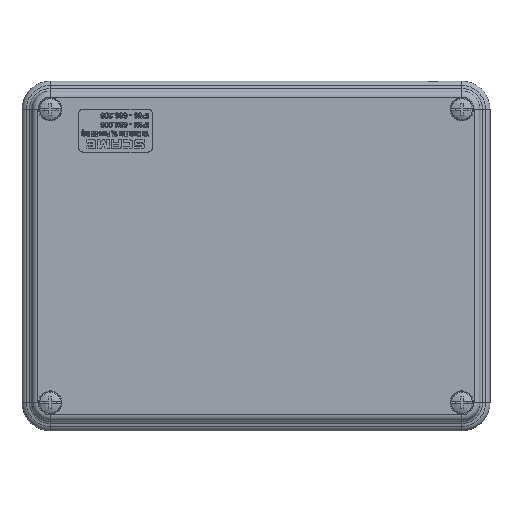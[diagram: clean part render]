
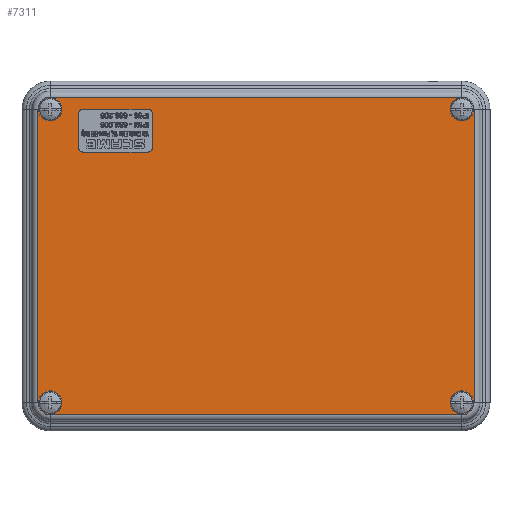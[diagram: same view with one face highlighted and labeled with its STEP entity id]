
A CAD part, top view. The second image highlights one B-rep face of the part: STEP entity #7311.
In plain terms, the highlighted planar face has unit normal (0, 0, 1).
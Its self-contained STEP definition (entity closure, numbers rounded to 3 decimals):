
#5918=FACE_BOUND('',#11268,.T.);
#5919=FACE_BOUND('',#11269,.T.);
#5920=FACE_BOUND('',#11270,.T.);
#5921=FACE_BOUND('',#11271,.T.);
#5922=FACE_BOUND('',#11272,.T.);
#5923=FACE_BOUND('',#11273,.T.);
#6543=CIRCLE('',#32771,1.5);
#6544=CIRCLE('',#32772,1.5);
#6545=CIRCLE('',#32773,1.5);
#6546=CIRCLE('',#32774,1.5);
#6547=CIRCLE('',#32775,3.979);
#6548=CIRCLE('',#32776,4.1);
#6549=CIRCLE('',#32777,4.1);
#6550=CIRCLE('',#32778,4.1);
#6551=CIRCLE('',#32779,4.1);
#6552=CIRCLE('',#32780,3.979);
#6553=CIRCLE('',#32781,3.979);
#6554=CIRCLE('',#32782,3.979);
#7311=ADVANCED_FACE('',(#5918,#5919,#5920,#5921,#5922,#5923),#8704,.F.);
#8704=PLANE('',#32783);
#11268=EDGE_LOOP('',(#15369,#15370,#15371,#15372,#15373,#15374,#15375,#15376));
#11269=EDGE_LOOP('',(#15377));
#11270=EDGE_LOOP('',(#15378,#15379,#15380,#15381,#15382,#15383,#15384,#15385));
#11271=EDGE_LOOP('',(#15386));
#11272=EDGE_LOOP('',(#15387));
#11273=EDGE_LOOP('',(#15388));
#15369=ORIENTED_EDGE('',*,*,#25299,.F.);
#15370=ORIENTED_EDGE('',*,*,#25300,.T.);
#15371=ORIENTED_EDGE('',*,*,#25301,.F.);
#15372=ORIENTED_EDGE('',*,*,#25302,.T.);
#15373=ORIENTED_EDGE('',*,*,#25303,.F.);
#15374=ORIENTED_EDGE('',*,*,#25304,.T.);
#15375=ORIENTED_EDGE('',*,*,#25305,.F.);
#15376=ORIENTED_EDGE('',*,*,#25306,.T.);
#15377=ORIENTED_EDGE('',*,*,#25307,.F.);
#15378=ORIENTED_EDGE('',*,*,#25308,.T.);
#15379=ORIENTED_EDGE('',*,*,#25309,.T.);
#15380=ORIENTED_EDGE('',*,*,#25310,.T.);
#15381=ORIENTED_EDGE('',*,*,#25311,.T.);
#15382=ORIENTED_EDGE('',*,*,#25312,.T.);
#15383=ORIENTED_EDGE('',*,*,#25313,.T.);
#15384=ORIENTED_EDGE('',*,*,#25314,.T.);
#15385=ORIENTED_EDGE('',*,*,#25315,.T.);
#15386=ORIENTED_EDGE('',*,*,#25316,.F.);
#15387=ORIENTED_EDGE('',*,*,#25317,.F.);
#15388=ORIENTED_EDGE('',*,*,#25318,.F.);
#22201=VERTEX_POINT('',#46527);
#22202=VERTEX_POINT('',#46528);
#22203=VERTEX_POINT('',#46530);
#22204=VERTEX_POINT('',#46532);
#22205=VERTEX_POINT('',#46534);
#22206=VERTEX_POINT('',#46536);
#22207=VERTEX_POINT('',#46538);
#22208=VERTEX_POINT('',#46540);
#22209=VERTEX_POINT('',#46543);
#22210=VERTEX_POINT('',#46545);
#22211=VERTEX_POINT('',#46546);
#22212=VERTEX_POINT('',#46548);
#22213=VERTEX_POINT('',#46550);
#22214=VERTEX_POINT('',#46552);
#22215=VERTEX_POINT('',#46554);
#22216=VERTEX_POINT('',#46556);
#22217=VERTEX_POINT('',#46558);
#22218=VERTEX_POINT('',#46561);
#22219=VERTEX_POINT('',#46563);
#22220=VERTEX_POINT('',#46565);
#25299=EDGE_CURVE('',#22201,#22202,#28300,.T.);
#25300=EDGE_CURVE('',#22201,#22203,#6543,.T.);
#25301=EDGE_CURVE('',#22204,#22203,#28301,.T.);
#25302=EDGE_CURVE('',#22204,#22205,#6544,.T.);
#25303=EDGE_CURVE('',#22206,#22205,#28302,.T.);
#25304=EDGE_CURVE('',#22206,#22207,#6545,.T.);
#25305=EDGE_CURVE('',#22208,#22207,#28303,.T.);
#25306=EDGE_CURVE('',#22208,#22202,#6546,.T.);
#25307=EDGE_CURVE('',#22209,#22209,#6547,.T.);
#25308=EDGE_CURVE('',#22210,#22211,#28304,.T.);
#25309=EDGE_CURVE('',#22211,#22212,#6548,.T.);
#25310=EDGE_CURVE('',#22212,#22213,#28305,.T.);
#25311=EDGE_CURVE('',#22213,#22214,#6549,.T.);
#25312=EDGE_CURVE('',#22214,#22215,#28306,.T.);
#25313=EDGE_CURVE('',#22215,#22216,#6550,.T.);
#25314=EDGE_CURVE('',#22216,#22217,#28307,.T.);
#25315=EDGE_CURVE('',#22217,#22210,#6551,.T.);
#25316=EDGE_CURVE('',#22218,#22218,#6552,.T.);
#25317=EDGE_CURVE('',#22219,#22219,#6553,.T.);
#25318=EDGE_CURVE('',#22220,#22220,#6554,.T.);
#28300=LINE('',#46526,#30168);
#28301=LINE('',#46531,#30169);
#28302=LINE('',#46535,#30170);
#28303=LINE('',#46539,#30171);
#28304=LINE('',#46544,#30172);
#28305=LINE('',#46549,#30173);
#28306=LINE('',#46553,#30174);
#28307=LINE('',#46557,#30175);
#30168=VECTOR('',#36394,1.);
#30169=VECTOR('',#36397,1.);
#30170=VECTOR('',#36400,1.);
#30171=VECTOR('',#36403,1.);
#30172=VECTOR('',#36408,1.);
#30173=VECTOR('',#36411,1.);
#30174=VECTOR('',#36414,1.);
#30175=VECTOR('',#36417,1.);
#32771=AXIS2_PLACEMENT_3D('',#46529,#36395,#36396);
#32772=AXIS2_PLACEMENT_3D('',#46533,#36398,#36399);
#32773=AXIS2_PLACEMENT_3D('',#46537,#36401,#36402);
#32774=AXIS2_PLACEMENT_3D('',#46541,#36404,#36405);
#32775=AXIS2_PLACEMENT_3D('',#46542,#36406,#36407);
#32776=AXIS2_PLACEMENT_3D('',#46547,#36409,#36410);
#32777=AXIS2_PLACEMENT_3D('',#46551,#36412,#36413);
#32778=AXIS2_PLACEMENT_3D('',#46555,#36415,#36416);
#32779=AXIS2_PLACEMENT_3D('',#46559,#36418,#36419);
#32780=AXIS2_PLACEMENT_3D('',#46560,#36420,#36421);
#32781=AXIS2_PLACEMENT_3D('',#46562,#36422,#36423);
#32782=AXIS2_PLACEMENT_3D('',#46564,#36424,#36425);
#32783=AXIS2_PLACEMENT_3D('',#46566,#36426,#36427);
#36394=DIRECTION('',(-1.,0.,0.));
#36395=DIRECTION('',(0.,0.,-1.));
#36396=DIRECTION('',(1.,0.,0.));
#36397=DIRECTION('',(0.,1.,0.));
#36398=DIRECTION('',(0.,0.,-1.));
#36399=DIRECTION('',(1.,0.,0.));
#36400=DIRECTION('',(1.,0.,0.));
#36401=DIRECTION('',(0.,0.,-1.));
#36402=DIRECTION('',(1.,0.,0.));
#36403=DIRECTION('',(0.,-1.,0.));
#36404=DIRECTION('',(0.,0.,-1.));
#36405=DIRECTION('',(1.,0.,0.));
#36406=DIRECTION('',(0.,0.,1.));
#36407=DIRECTION('',(1.,0.,0.));
#36408=DIRECTION('',(-1.,0.,0.));
#36409=DIRECTION('',(0.,0.,1.));
#36410=DIRECTION('',(1.,0.,0.));
#36411=DIRECTION('',(0.,-1.,0.));
#36412=DIRECTION('',(0.,0.,1.));
#36413=DIRECTION('',(1.,0.,0.));
#36414=DIRECTION('',(1.,0.,0.));
#36415=DIRECTION('',(0.,0.,1.));
#36416=DIRECTION('',(1.,0.,0.));
#36417=DIRECTION('',(0.,1.,0.));
#36418=DIRECTION('',(0.,0.,1.));
#36419=DIRECTION('',(1.,0.,0.));
#36420=DIRECTION('',(0.,0.,1.));
#36421=DIRECTION('',(1.,0.,0.));
#36422=DIRECTION('',(0.,0.,1.));
#36423=DIRECTION('',(1.,0.,0.));
#36424=DIRECTION('',(0.,0.,1.));
#36425=DIRECTION('',(1.,0.,0.));
#36426=DIRECTION('',(0.,0.,-1.));
#36427=DIRECTION('',(1.,0.,0.));
#46526=CARTESIAN_POINT('',(-35.,49.6,74.3));
#46527=CARTESIAN_POINT('',(-36.5,49.6,74.3));
#46528=CARTESIAN_POINT('',(-58.5,49.6,74.3));
#46529=CARTESIAN_POINT('',(-36.5,48.1,74.3));
#46530=CARTESIAN_POINT('',(-35.,48.1,74.3));
#46531=CARTESIAN_POINT('',(-35.,35.1,74.3));
#46532=CARTESIAN_POINT('',(-35.,36.6,74.3));
#46533=CARTESIAN_POINT('',(-36.5,36.6,74.3));
#46534=CARTESIAN_POINT('',(-36.5,35.1,74.3));
#46535=CARTESIAN_POINT('',(-60.,35.1,74.3));
#46536=CARTESIAN_POINT('',(-58.5,35.1,74.3));
#46537=CARTESIAN_POINT('',(-58.5,36.6,74.3));
#46538=CARTESIAN_POINT('',(-60.,36.6,74.3));
#46539=CARTESIAN_POINT('',(-60.,49.6,74.3));
#46540=CARTESIAN_POINT('',(-60.,48.1,74.3));
#46541=CARTESIAN_POINT('',(-58.5,48.1,74.3));
#46542=CARTESIAN_POINT('',(69.6,49.6,74.3));
#46543=CARTESIAN_POINT('',(73.579,49.6,74.3));
#46544=CARTESIAN_POINT('',(-69.6,53.7,74.3));
#46545=CARTESIAN_POINT('',(69.6,53.7,74.3));
#46546=CARTESIAN_POINT('',(-69.6,53.7,74.3));
#46547=CARTESIAN_POINT('',(-69.6,49.6,74.3));
#46548=CARTESIAN_POINT('',(-73.7,49.6,74.3));
#46549=CARTESIAN_POINT('',(-73.7,-49.6,74.3));
#46550=CARTESIAN_POINT('',(-73.7,-49.6,74.3));
#46551=CARTESIAN_POINT('',(-69.6,-49.6,74.3));
#46552=CARTESIAN_POINT('',(-69.6,-53.7,74.3));
#46553=CARTESIAN_POINT('',(69.6,-53.7,74.3));
#46554=CARTESIAN_POINT('',(69.6,-53.7,74.3));
#46555=CARTESIAN_POINT('',(69.6,-49.6,74.3));
#46556=CARTESIAN_POINT('',(73.7,-49.6,74.3));
#46557=CARTESIAN_POINT('',(73.7,49.6,74.3));
#46558=CARTESIAN_POINT('',(73.7,49.6,74.3));
#46559=CARTESIAN_POINT('',(69.6,49.6,74.3));
#46560=CARTESIAN_POINT('',(69.6,-49.6,74.3));
#46561=CARTESIAN_POINT('',(73.579,-49.6,74.3));
#46562=CARTESIAN_POINT('',(-69.6,-49.6,74.3));
#46563=CARTESIAN_POINT('',(-65.621,-49.6,74.3));
#46564=CARTESIAN_POINT('',(-69.6,49.6,74.3));
#46565=CARTESIAN_POINT('',(-65.621,49.6,74.3));
#46566=CARTESIAN_POINT('',(-69.6,49.6,74.3));
